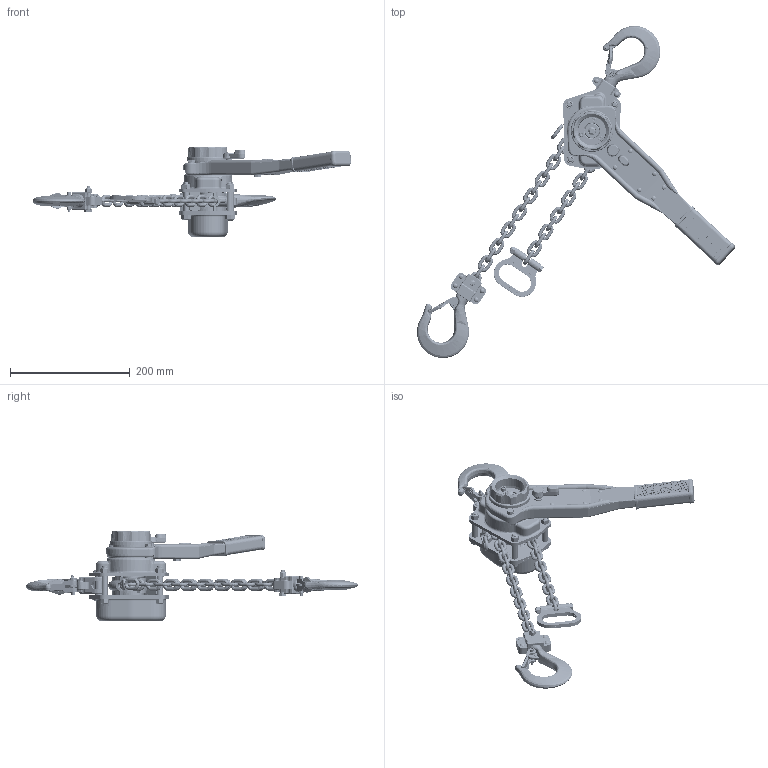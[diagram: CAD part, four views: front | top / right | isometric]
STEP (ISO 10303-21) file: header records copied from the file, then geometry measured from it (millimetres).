
FILE_DESCRIPTION (( 'STEP AP214' ), '1' );
FILE_NAME ('616B倰忒啣綵竄.STEP', '2023-02-17T07:02:30', ( '' ), ( '' ), 'SwSTEP 2.0', 'SolidWorks 2018', '' );
FILE_SCHEMA (( 'AUTOMOTIVE_DESIGN' ));
Length unit declared in the file: millimetre
Products named in the file (65): b______.STEP; 616B倰忒啣綵竄; ______-16.STEP; ________3  5.STEP; ____-31.STEP; ____-24.STEP; ____.STEP; ______-1.STEP; M4__________.STEP; ________-20.STEP; 1T____________20170601__.STEP; ____-11.STEP; ________1.STEP; M4____________.STEP; __________-34.STEP; OZ______.STEP; ______-0.STEP; ________-6.STEP; ________1-37.STEP; M6  12________.STEP; ____-10.STEP; ________________.STEP; ________-39.STEP; ________26.STEP; ________-36.STEP; ________-4.STEP; ______ .STEP; M6____________.STEP; ____-5.STEP; 626-0.75T________.STEP; ______-2.STEP; 626-0.75T________-33.STEP; ____-18.STEP; 0.75____________.STEP; ______-3.STEP; ______-15.STEP; ________-25.STEP; ______-12.STEP; ________-28.STEP; ______-9.STEP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
Assembly tree (116 placements, depth 3):
  616B倰忒啣綵竄
    616B倰忒啣綵竄.STEP
      ______.STEP
      ______-0.STEP
      ______-1.STEP  x2
      ______-2.STEP
      ______-3.STEP
      ________.STEP
      ________-4.STEP  x2
      ____.STEP  x4
      ____-5.STEP  x2
      ________-6.STEP
      ______-7.STEP  x2
      ______-8.STEP  x4
      ______-9.STEP
      ____-10.STEP
      ____-11.STEP
      ______-12.STEP
      ________-13.STEP  x2
      ____-14.STEP
      ______-15.STEP  x2
      ______-16.STEP
      ______-17.STEP  x2
      ____-18.STEP
      ________-19.STEP
      M6____________.STEP  x2
      ________-20.STEP  x4
      ________-21.STEP  x6
      ________26.STEP
      M4__________.STEP  x2
      ________-22.STEP  x2
      M4____________.STEP  x2
      ________-23.STEP  x2
      ____-24.STEP  x2
      8________.STEP  x2
      M6  12________.STEP  x3
      ________-25.STEP  x2
      ________-26.STEP  x3
      ________-27.STEP
      ________-28.STEP
      ______-29.STEP
      ________3  5.STEP  x6
      ______-30.STEP
      ____-31.STEP
      ________1.STEP
      ________________.STEP  x9
      0.75____________.STEP
      ______ .STEP
      626-0.75 ________.STEP
      626-0.75T________.STEP
      626-0.75T ________.STEP
      ____-32.STEP  x2
      626-0.75T________-33.STEP
      ____23.STEP
      OZ______.STEP
      __________.STEP
      __________-34.STEP
      ____-35.STEP  x2
      1T____________20170601__.STEP  x2
      ________-36.STEP  x2
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Bounding box: 531.36 x 554.57 x 152 mm (x, y, z)
Volume: 888098.7 mm3; surface area: 571298.9 mm2
Topology: 226 solids, 226 shells, 7491 faces, 18695 edges, 11850 vertices
Faces by surface type: plane 3208, cylinder 2439, bspline 842, torus 618, cone 366, sphere 18
Entity records: 245555 total; most frequent: CARTESIAN_POINT 100008, ORIENTED_EDGE 30056, DIRECTION 29005, EDGE_CURVE 15028, AXIS2_PLACEMENT_3D 10439, VERTEX_POINT 9597, VECTOR 8127, LINE 8127
